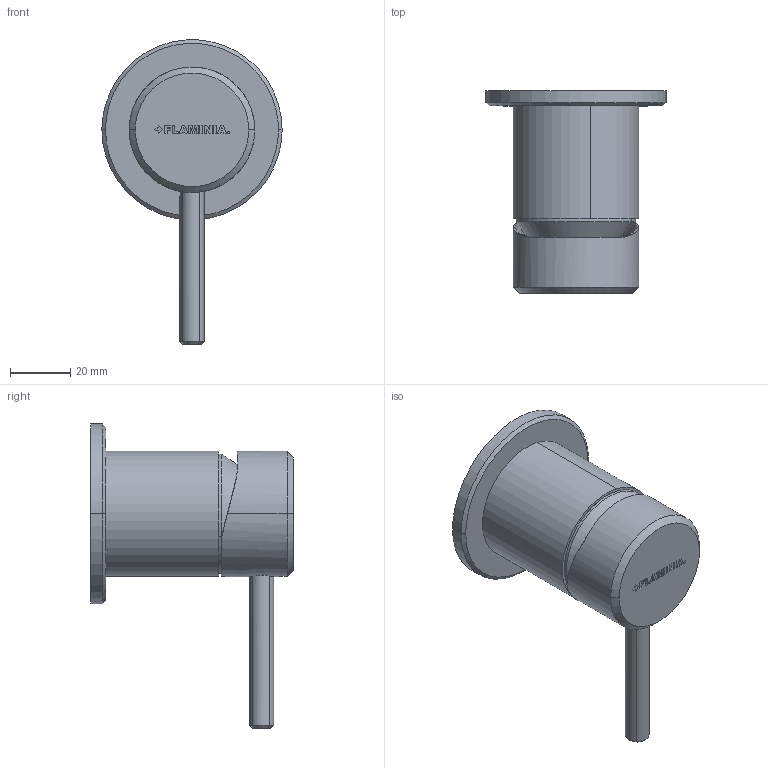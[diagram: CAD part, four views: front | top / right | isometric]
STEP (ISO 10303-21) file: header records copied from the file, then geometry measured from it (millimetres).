
FILE_DESCRIPTION(/* description */ (''),/* implementation_level */ '2;1');
FILE_NAME(/* name */ 'ST2560ACC',/* time_stamp */ '2024-03-14T15:09:30+01:00',/* author */ (''),/* organization */ (''),/* preprocessor_version */ 'ST-DEVELOPER v16.5',/* originating_system */ 'Rhino 7.36',/* authorisation */ '');
FILE_SCHEMA (('CONFIG_CONTROL_DESIGN'));
Length unit declared in the file: millimetre
Products named in the file (1): Document
Bounding box: 60 x 67.35 x 101.29 mm (x, y, z)
Volume: 7194.6 mm3; surface area: 19337.1 mm2
Topology: 11 solids, 15 shells, 248 faces, 624 edges, 412 vertices
Faces by surface type: plane 208, cylinder 23, bspline 17
Entity records: 7026 total; most frequent: CARTESIAN_POINT 2634, ORIENTED_EDGE 1222, EDGE_CURVE 624, B_SPLINE_CURVE_WITH_KNOTS 524, VERTEX_POINT 412, EDGE_LOOP 270, ADVANCED_FACE 248, FACE_OUTER_BOUND 248
